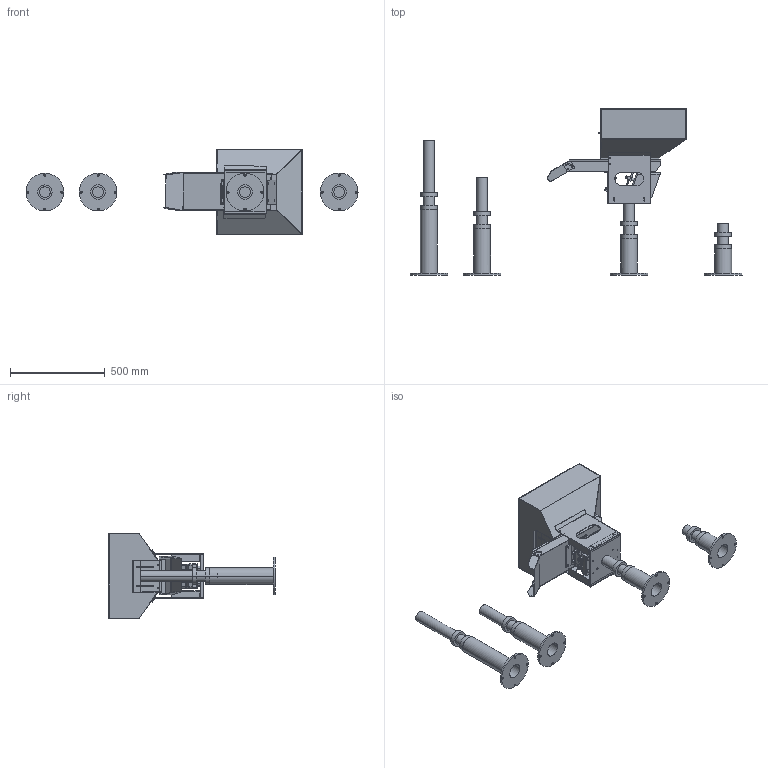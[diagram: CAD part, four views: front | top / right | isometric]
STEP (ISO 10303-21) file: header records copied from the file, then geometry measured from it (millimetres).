
FILE_DESCRIPTION (( 'STEP AP203' ), '1' );
FILE_NAME ('LC4500-A 淥雄蹋累.STEP', '2025-07-13T02:43:08', ( '' ), ( '' ), 'SwSTEP 2.0', 'SolidWorks 2022', '' );
FILE_SCHEMA (( 'CONFIG_CONTROL_DESIGN' ));
Length unit declared in the file: millimetre
Products named in the file (1): LC4500-A 淥雄蹋累
Bounding box: 1755.42 x 879.74 x 450 mm (x, y, z)
Volume: 12429110.1 mm3; surface area: 3680741.3 mm2
Topology: 33 solids, 37 shells, 918 faces, 2345 edges, 1519 vertices
Faces by surface type: plane 438, cylinder 378, cone 88, bspline 14
Entity records: 32011 total; most frequent: CARTESIAN_POINT 9246, DIRECTION 4691, ORIENTED_EDGE 4646, EDGE_CURVE 2323, AXIS2_PLACEMENT_3D 1722, VERTEX_POINT 1519, LINE 1247, VECTOR 1247
